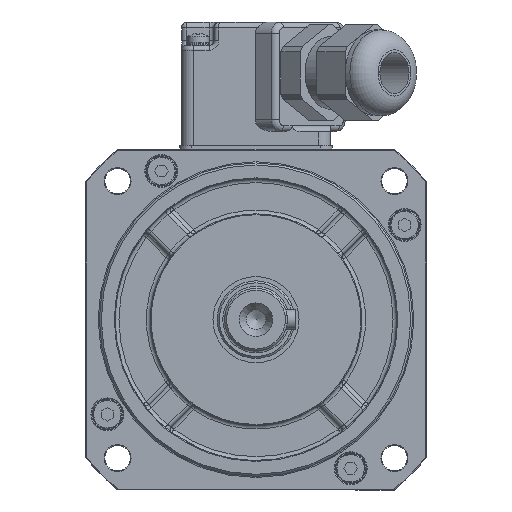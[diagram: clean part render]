
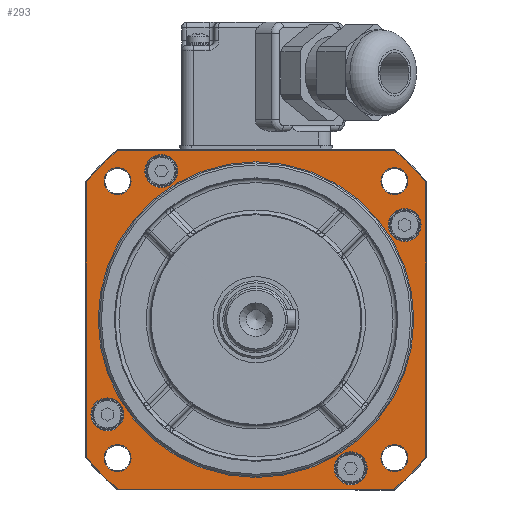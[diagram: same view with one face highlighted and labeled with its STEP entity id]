
A CAD part, front view. The second image highlights one B-rep face of the part: STEP entity #293.
In plain terms, the highlighted planar face has unit normal (0, -1, 0).
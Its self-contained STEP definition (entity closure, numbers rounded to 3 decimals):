
#293=ADVANCED_FACE('',(#2338,#2339,#2340,#2341,#2342,#2343,#2344,#2345,#2346,#2347),#2348,.T.);
#2338=FACE_BOUND('',#8554,.T.);
#2339=FACE_BOUND('',#8555,.T.);
#2340=FACE_BOUND('',#8556,.T.);
#2341=FACE_BOUND('',#8557,.T.);
#2342=FACE_BOUND('',#8558,.T.);
#2343=FACE_BOUND('',#8559,.T.);
#2344=FACE_BOUND('',#8560,.T.);
#2345=FACE_BOUND('',#8561,.T.);
#2346=FACE_BOUND('',#8562,.T.);
#2347=FACE_OUTER_BOUND('',#8563,.T.);
#2348=PLANE('',#8564);
#8554=EDGE_LOOP('',(#18260));
#8555=EDGE_LOOP('',(#18261));
#8556=EDGE_LOOP('',(#18262));
#8557=EDGE_LOOP('',(#18263));
#8558=EDGE_LOOP('',(#18264));
#8559=EDGE_LOOP('',(#18265));
#8560=EDGE_LOOP('',(#18266));
#8561=EDGE_LOOP('',(#18267));
#8562=EDGE_LOOP('',(#18268));
#8563=EDGE_LOOP('',(#18269,#18270,#18271,#18272,#18273,#18274,#18275,#18276));
#8564=AXIS2_PLACEMENT_3D('',#18277,#18278,#18279);
#18260=ORIENTED_EDGE('',*,*,#31184,.T.);
#18261=ORIENTED_EDGE('',*,*,#31185,.T.);
#18262=ORIENTED_EDGE('',*,*,#30915,.T.);
#18263=ORIENTED_EDGE('',*,*,#31186,.T.);
#18264=ORIENTED_EDGE('',*,*,#31008,.T.);
#18265=ORIENTED_EDGE('',*,*,#31187,.T.);
#18266=ORIENTED_EDGE('',*,*,#31188,.T.);
#18267=ORIENTED_EDGE('',*,*,#31183,.T.);
#18268=ORIENTED_EDGE('',*,*,#31189,.T.);
#18269=ORIENTED_EDGE('',*,*,#31190,.T.);
#18270=ORIENTED_EDGE('',*,*,#30964,.T.);
#18271=ORIENTED_EDGE('',*,*,#31095,.T.);
#18272=ORIENTED_EDGE('',*,*,#31098,.T.);
#18273=ORIENTED_EDGE('',*,*,#31191,.T.);
#18274=ORIENTED_EDGE('',*,*,#31192,.T.);
#18275=ORIENTED_EDGE('',*,*,#31110,.T.);
#18276=ORIENTED_EDGE('',*,*,#31112,.T.);
#18277=CARTESIAN_POINT('',(0.,-126.0,0.));
#18278=DIRECTION('',(0.,-1.0,0.));
#18279=DIRECTION('',(-1.0,0.,0.0));
#30915=EDGE_CURVE('',#35527,#35527,#35528,.T.);
#30964=EDGE_CURVE('',#35612,#35614,#35616,.T.);
#31008=EDGE_CURVE('',#35688,#35688,#35689,.T.);
#31095=EDGE_CURVE('',#35614,#35835,#35837,.T.);
#31098=EDGE_CURVE('',#35835,#35840,#35842,.T.);
#31110=EDGE_CURVE('',#35857,#35859,#35861,.T.);
#31112=EDGE_CURVE('',#35859,#35862,#35864,.T.);
#31183=EDGE_CURVE('',#35965,#35965,#35966,.T.);
#31184=EDGE_CURVE('',#35967,#35967,#35968,.T.);
#31185=EDGE_CURVE('',#35969,#35969,#35970,.T.);
#31186=EDGE_CURVE('',#35971,#35971,#35972,.T.);
#31187=EDGE_CURVE('',#35973,#35973,#35974,.T.);
#31188=EDGE_CURVE('',#35975,#35975,#35976,.T.);
#31189=EDGE_CURVE('',#35977,#35977,#35978,.T.);
#31190=EDGE_CURVE('',#35862,#35612,#35979,.T.);
#31191=EDGE_CURVE('',#35840,#35980,#35981,.T.);
#31192=EDGE_CURVE('',#35980,#35857,#35982,.T.);
#35527=VERTEX_POINT('',#43566);
#35528=CIRCLE('',#43567,4.2);
#35612=VERTEX_POINT('',#43740);
#35614=VERTEX_POINT('',#43742);
#35616=LINE('',#43744,#43745);
#35688=VERTEX_POINT('',#43830);
#35689=CIRCLE('',#43831,4.2);
#35835=VERTEX_POINT('',#44157);
#35837=CIRCLE('',#44159,55.8);
#35840=VERTEX_POINT('',#44162);
#35842=LINE('',#44164,#44165);
#35857=VERTEX_POINT('',#44186);
#35859=VERTEX_POINT('',#44188);
#35861=CIRCLE('',#44190,55.8);
#35862=VERTEX_POINT('',#44191);
#35864=LINE('',#44193,#44194);
#35965=VERTEX_POINT('',#44402);
#35966=CIRCLE('',#44403,3.45);
#35967=VERTEX_POINT('',#44404);
#35968=CIRCLE('',#44405,40.3);
#35969=VERTEX_POINT('',#44406);
#35970=CIRCLE('',#44407,4.2);
#35971=VERTEX_POINT('',#44408);
#35972=CIRCLE('',#44409,4.2);
#35973=VERTEX_POINT('',#44410);
#35974=CIRCLE('',#44411,3.45);
#35975=VERTEX_POINT('',#44412);
#35976=CIRCLE('',#44413,3.45);
#35977=VERTEX_POINT('',#44414);
#35978=CIRCLE('',#44415,3.45);
#35979=CIRCLE('',#44416,55.8);
#35980=VERTEX_POINT('',#44417);
#35981=CIRCLE('',#44418,55.8);
#35982=LINE('',#44419,#44420);
#43566=CARTESIAN_POINT('',(-24.178,-126.0,42.153));
#43567=AXIS2_PLACEMENT_3D('',#54732,#54733,#54734);
#43740=CARTESIAN_POINT('',(35.196,-126.0,43.3));
#43742=CARTESIAN_POINT('',(-35.196,-126.0,43.3));
#43744=CARTESIAN_POINT('',(0.,-126.0,43.3));
#43745=VECTOR('',#54839,1.0);
#43830=CARTESIAN_POINT('',(37.953,-126.0,28.378));
#43831=AXIS2_PLACEMENT_3D('',#54943,#54944,#54945);
#44157=CARTESIAN_POINT('',(-43.3,-126.0,35.196));
#44159=AXIS2_PLACEMENT_3D('',#55071,#55072,#55073);
#44162=CARTESIAN_POINT('',(-43.3,-126.0,-35.196));
#44164=CARTESIAN_POINT('',(-43.3,-126.0,0.));
#44165=VECTOR('',#55080,1.0);
#44186=CARTESIAN_POINT('',(35.196,-126.0,-43.3));
#44188=CARTESIAN_POINT('',(43.3,-126.0,-35.196));
#44190=AXIS2_PLACEMENT_3D('',#55102,#55103,#55104);
#44191=CARTESIAN_POINT('',(43.3,-126.0,35.196));
#44193=CARTESIAN_POINT('',(43.3,-126.0,0.));
#44194=VECTOR('',#55108,1.0);
#44402=CARTESIAN_POINT('',(35.355,-126.0,-31.905));
#44403=AXIS2_PLACEMENT_3D('',#55252,#55253,#55254);
#44404=CARTESIAN_POINT('',(0.,-126.0,40.3));
#44405=AXIS2_PLACEMENT_3D('',#55255,#55256,#55257);
#44406=CARTESIAN_POINT('',(-37.953,-126.0,-19.978));
#44407=AXIS2_PLACEMENT_3D('',#55258,#55259,#55260);
#44408=CARTESIAN_POINT('',(24.178,-126.0,-33.753));
#44409=AXIS2_PLACEMENT_3D('',#55261,#55262,#55263);
#44410=CARTESIAN_POINT('',(-35.355,-126.0,-31.905));
#44411=AXIS2_PLACEMENT_3D('',#55264,#55265,#55266);
#44412=CARTESIAN_POINT('',(-35.355,-126.0,38.805));
#44413=AXIS2_PLACEMENT_3D('',#55267,#55268,#55269);
#44414=CARTESIAN_POINT('',(35.355,-126.0,38.805));
#44415=AXIS2_PLACEMENT_3D('',#55270,#55271,#55272);
#44416=AXIS2_PLACEMENT_3D('',#55273,#55274,#55275);
#44417=CARTESIAN_POINT('',(-35.196,-126.0,-43.3));
#44418=AXIS2_PLACEMENT_3D('',#55276,#55277,#55278);
#44419=CARTESIAN_POINT('',(0.,-126.0,-43.3));
#44420=VECTOR('',#55279,1.0);
#54732=CARTESIAN_POINT('',(-24.178,-126.0,37.953));
#54733=DIRECTION('',(0.,1.0,0.));
#54734=DIRECTION('',(0.,0.,1.0));
#54839=DIRECTION('',(-1.0,0.,0.));
#54943=CARTESIAN_POINT('',(37.953,-126.0,24.178));
#54944=DIRECTION('',(0.,1.0,0.));
#54945=DIRECTION('',(0.,0.,1.0));
#55071=CARTESIAN_POINT('',(0.,-126.0,0.));
#55072=DIRECTION('',(0.,-1.0,0.));
#55073=DIRECTION('',(0.,0.,1.0));
#55080=DIRECTION('',(0.,0.,-1.0));
#55102=CARTESIAN_POINT('',(0.,-126.0,0.));
#55103=DIRECTION('',(0.,-1.0,0.));
#55104=DIRECTION('',(0.,0.,1.0));
#55108=DIRECTION('',(0.,0.,1.0));
#55252=CARTESIAN_POINT('',(35.355,-126.0,-35.355));
#55253=DIRECTION('',(0.,1.0,0.));
#55254=DIRECTION('',(0.,0.,1.0));
#55255=CARTESIAN_POINT('',(0.,-126.0,0.));
#55256=DIRECTION('',(0.,1.0,0.));
#55257=DIRECTION('',(0.,0.,1.0));
#55258=CARTESIAN_POINT('',(-37.953,-126.0,-24.178));
#55259=DIRECTION('',(0.,1.0,0.));
#55260=DIRECTION('',(0.,0.,1.0));
#55261=CARTESIAN_POINT('',(24.178,-126.0,-37.953));
#55262=DIRECTION('',(0.,1.0,0.));
#55263=DIRECTION('',(0.,0.,1.0));
#55264=CARTESIAN_POINT('',(-35.355,-126.0,-35.355));
#55265=DIRECTION('',(0.,1.0,0.));
#55266=DIRECTION('',(0.,0.,1.0));
#55267=CARTESIAN_POINT('',(-35.355,-126.0,35.355));
#55268=DIRECTION('',(0.,1.0,0.));
#55269=DIRECTION('',(0.,0.,1.0));
#55270=CARTESIAN_POINT('',(35.355,-126.0,35.355));
#55271=DIRECTION('',(0.,1.0,0.));
#55272=DIRECTION('',(0.,0.,1.0));
#55273=CARTESIAN_POINT('',(0.,-126.0,0.));
#55274=DIRECTION('',(0.,-1.0,0.));
#55275=DIRECTION('',(0.,0.,1.0));
#55276=CARTESIAN_POINT('',(0.,-126.0,0.));
#55277=DIRECTION('',(0.,-1.0,0.));
#55278=DIRECTION('',(0.,0.,1.0));
#55279=DIRECTION('',(1.0,0.,0.));
